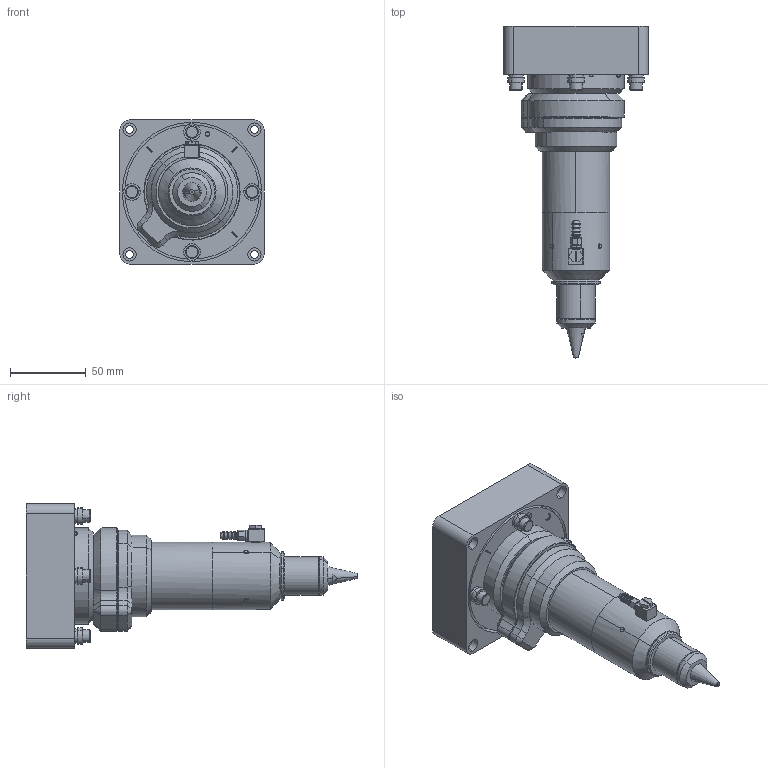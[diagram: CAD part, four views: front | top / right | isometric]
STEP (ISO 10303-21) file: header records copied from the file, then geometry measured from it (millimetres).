
FILE_DESCRIPTION (( 'STEP AP214' ), '1' );
FILE_NAME ('ILH-19-25-076.STEP', '2018-05-30T15:40:31', ( '' ), ( '' ), 'SwSTEP 2.0', 'SolidWorks 2018', '' );
FILE_SCHEMA (( 'AUTOMOTIVE_DESIGN' ));
Length unit declared in the file: inch
Products named in the file (1): ILH-19-25-076
Bounding box: 95.25 x 219.23 x 95.25 mm (x, y, z)
Volume: 571256 mm3; surface area: 72112.8 mm2
Topology: 1 solids, 1 shells, 444 faces, 992 edges, 575 vertices
Faces by surface type: cylinder 146, plane 116, torus 71, cone 65, bspline 24, sphere 22
Entity records: 21501 total; most frequent: CARTESIAN_POINT 11528, DIRECTION 2262, ORIENTED_EDGE 1932, EDGE_CURVE 966, AXIS2_PLACEMENT_3D 957, VERTEX_POINT 573, CIRCLE 536, EDGE_LOOP 527
